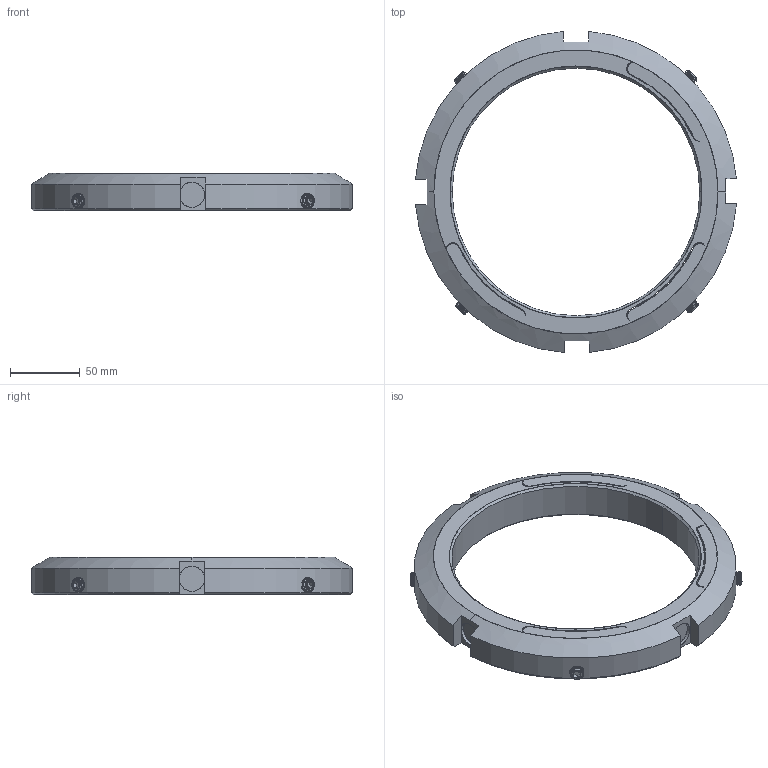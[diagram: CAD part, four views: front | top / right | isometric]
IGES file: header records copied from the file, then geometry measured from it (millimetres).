
Start section: SolidWorks IGES file using analytic representation for surfaces
Global section: file name: C:\Manufacturing Design Services\Taperline Manufacturing\Catalog\TLNKM 36\TLNKM 36 PH.IGS; native system: SolidWorks 2010; preprocessor: SolidWorks 2010; author: ProBook; date: 110807.205832; units: millimetre
Bounding box: 229.36 x 229.36 x 27 mm (x, y, z)
Surface area: 86438.6 mm2 (no closed solid volume)
Topology: 0 solids, 0 shells, 431 faces, 11073 edges, 11073 vertices
Faces by surface type: revolution 361, bspline 70
